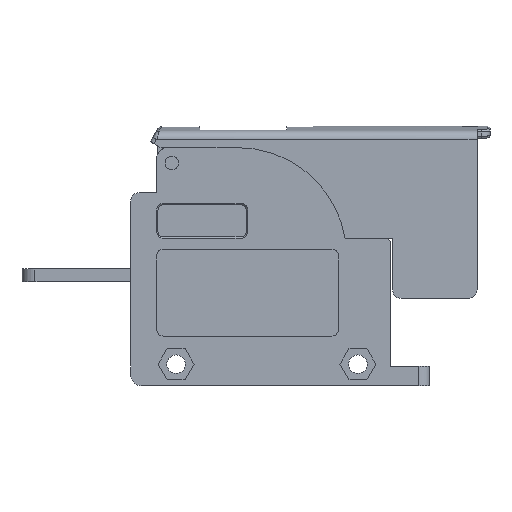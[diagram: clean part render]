
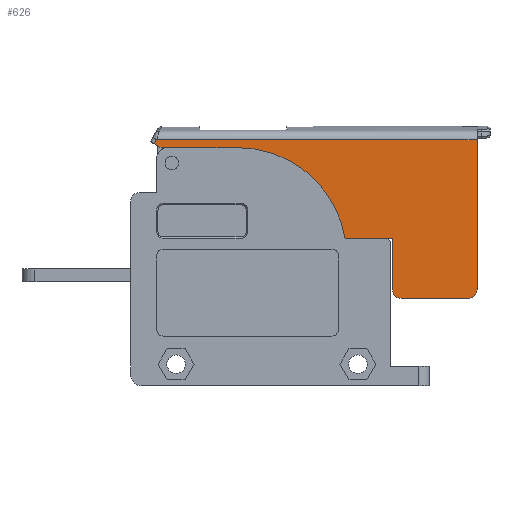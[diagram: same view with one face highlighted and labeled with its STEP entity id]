
A CAD part, left-side view. The second image highlights one B-rep face of the part: STEP entity #626.
In plain terms, the highlighted planar face has unit normal (-1, 0, 0).
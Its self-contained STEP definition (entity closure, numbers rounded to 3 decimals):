
#340=CIRCLE('',#5990,25.);
#386=CIRCLE('',#6107,2.);
#387=CIRCLE('',#6108,2.);
#626=ADVANCED_FACE('',(#1095),#866,.T.);
#866=PLANE('',#6109);
#1095=FACE_OUTER_BOUND('',#1412,.T.);
#1412=EDGE_LOOP('',(#2612,#2613,#2614,#2615,#2616,#2617,#2618,#2619,#2620,
#2621,#2622,#2623,#2624,#2625));
#1563=B_SPLINE_CURVE_WITH_KNOTS('',3,(#9207,#9208,#9209,#9210),
 .UNSPECIFIED.,.F.,.F.,(4,4),(0.,1.),.UNSPECIFIED.);
#2612=ORIENTED_EDGE('',*,*,#3805,.T.);
#2613=ORIENTED_EDGE('',*,*,#4354,.T.);
#2614=ORIENTED_EDGE('',*,*,#4355,.T.);
#2615=ORIENTED_EDGE('',*,*,#4356,.T.);
#2616=ORIENTED_EDGE('',*,*,#4357,.T.);
#2617=ORIENTED_EDGE('',*,*,#4358,.T.);
#2618=ORIENTED_EDGE('',*,*,#4346,.T.);
#2619=ORIENTED_EDGE('',*,*,#4345,.T.);
#2620=ORIENTED_EDGE('',*,*,#4236,.T.);
#2621=ORIENTED_EDGE('',*,*,#4246,.T.);
#2622=ORIENTED_EDGE('',*,*,#4338,.T.);
#2623=ORIENTED_EDGE('',*,*,#4136,.T.);
#2624=ORIENTED_EDGE('',*,*,#4151,.F.);
#2625=ORIENTED_EDGE('',*,*,#3833,.F.);
#3251=VERTEX_POINT('',#7805);
#3252=VERTEX_POINT('',#7806);
#3276=VERTEX_POINT('',#7863);
#3278=VERTEX_POINT('',#7869);
#3495=VERTEX_POINT('',#8480);
#3559=VERTEX_POINT('',#8689);
#3560=VERTEX_POINT('',#8691);
#3568=VERTEX_POINT('',#8718);
#3630=VERTEX_POINT('',#9211);
#3631=VERTEX_POINT('',#9213);
#3634=VERTEX_POINT('',#9230);
#3635=VERTEX_POINT('',#9232);
#3636=VERTEX_POINT('',#9234);
#3637=VERTEX_POINT('',#9236);
#3805=EDGE_CURVE('',#3251,#3252,#4628,.T.);
#3833=EDGE_CURVE('',#3251,#3278,#4646,.T.);
#4136=EDGE_CURVE('',#3276,#3495,#4890,.T.);
#4151=EDGE_CURVE('',#3278,#3495,#340,.T.);
#4236=EDGE_CURVE('',#3560,#3559,#4959,.T.);
#4246=EDGE_CURVE('',#3559,#3568,#4965,.T.);
#4338=EDGE_CURVE('',#3568,#3276,#5019,.T.);
#4345=EDGE_CURVE('',#3630,#3560,#1563,.T.);
#4346=EDGE_CURVE('',#3631,#3630,#5026,.T.);
#4354=EDGE_CURVE('',#3252,#3634,#5031,.T.);
#4355=EDGE_CURVE('',#3634,#3635,#386,.T.);
#4356=EDGE_CURVE('',#3635,#3636,#5032,.T.);
#4357=EDGE_CURVE('',#3636,#3637,#387,.T.);
#4358=EDGE_CURVE('',#3637,#3631,#5033,.T.);
#4628=LINE('',#7804,#5220);
#4646=LINE('',#7868,#5238);
#4890=LINE('',#8481,#5482);
#4959=LINE('',#8690,#5551);
#4965=LINE('',#8719,#5557);
#5019=LINE('',#9193,#5611);
#5026=LINE('',#9212,#5618);
#5031=LINE('',#9229,#5623);
#5032=LINE('',#9233,#5624);
#5033=LINE('',#9237,#5625);
#5220=VECTOR('',#6281,1.);
#5238=VECTOR('',#6329,1.);
#5482=VECTOR('',#6875,1.);
#5551=VECTOR('',#7080,1.);
#5557=VECTOR('',#7090,1.);
#5611=VECTOR('',#7236,1.);
#5618=VECTOR('',#7251,1.);
#5623=VECTOR('',#7266,1.);
#5624=VECTOR('',#7269,1.);
#5625=VECTOR('',#7272,1.);
#5990=AXIS2_PLACEMENT_3D('',#8508,#6904,#6905);
#6107=AXIS2_PLACEMENT_3D('',#9231,#7267,#7268);
#6108=AXIS2_PLACEMENT_3D('',#9235,#7270,#7271);
#6109=AXIS2_PLACEMENT_3D('',#9238,#7273,#7274);
#6281=DIRECTION('',(0.,-1.,0.));
#6329=DIRECTION('',(0.,1.,0.));
#6875=DIRECTION('',(0.,-1.,0.));
#6904=DIRECTION('',(-1.,0.,0.));
#6905=DIRECTION('',(0.,-1.,0.));
#7080=DIRECTION('',(0.,0.5,-0.866));
#7090=DIRECTION('',(0.,-0.866,-0.5));
#7236=DIRECTION('',(0.,-1.,0.));
#7251=DIRECTION('',(0.,1.,0.));
#7266=DIRECTION('',(0.,0.,-1.));
#7267=DIRECTION('',(-1.,0.,0.));
#7268=DIRECTION('',(0.,-1.,0.));
#7269=DIRECTION('',(0.,-1.,0.));
#7270=DIRECTION('',(-1.,0.,0.));
#7271=DIRECTION('',(0.,-1.,0.));
#7272=DIRECTION('',(0.,0.,1.));
#7273=DIRECTION('',(-1.,0.,0.));
#7274=DIRECTION('',(0.,0.,-1.));
#7804=CARTESIAN_POINT('',(-92.05,47.016,19.55));
#7805=CARTESIAN_POINT('',(-92.05,-5.5,19.55));
#7806=CARTESIAN_POINT('',(-92.05,-7.,19.55));
#7863=CARTESIAN_POINT('',(-92.05,45.,40.55));
#7868=CARTESIAN_POINT('',(-92.05,-13.6,19.55));
#7869=CARTESIAN_POINT('',(-92.05,3.976,19.55));
#8480=CARTESIAN_POINT('',(-92.05,28.654,40.55));
#8481=CARTESIAN_POINT('',(-92.05,8.384,40.55));
#8508=CARTESIAN_POINT('',(-92.05,28.654,15.55));
#8689=CARTESIAN_POINT('',(-92.05,48.051,41.467));
#8690=CARTESIAN_POINT('',(-92.05,58.542,23.297));
#8691=CARTESIAN_POINT('',(-92.05,47.515,42.396));
#8718=CARTESIAN_POINT('',(-92.05,46.462,40.55));
#8719=CARTESIAN_POINT('',(-92.05,46.997,40.859));
#9193=CARTESIAN_POINT('',(-92.05,8.384,40.55));
#9207=CARTESIAN_POINT('',(-92.05,38.5,42.417));
#9208=CARTESIAN_POINT('',(-92.05,41.505,42.41));
#9209=CARTESIAN_POINT('',(-92.05,44.51,42.403));
#9210=CARTESIAN_POINT('',(-92.05,47.515,42.396));
#9211=CARTESIAN_POINT('',(-92.05,38.5,42.417));
#9212=CARTESIAN_POINT('',(-92.05,39.7,42.437));
#9213=CARTESIAN_POINT('',(-92.05,-26.5,42.437));
#9229=CARTESIAN_POINT('',(-92.05,-7.,42.55));
#9230=CARTESIAN_POINT('',(-92.05,-7.,7.75));
#9231=CARTESIAN_POINT('',(-92.05,-9.,7.75));
#9232=CARTESIAN_POINT('',(-92.05,-9.,5.75));
#9233=CARTESIAN_POINT('',(-92.05,7.4,5.75));
#9234=CARTESIAN_POINT('',(-92.05,-24.5,5.75));
#9235=CARTESIAN_POINT('',(-92.05,-24.5,7.75));
#9236=CARTESIAN_POINT('',(-92.05,-26.5,7.75));
#9237=CARTESIAN_POINT('',(-92.05,-26.5,42.55));
#9238=CARTESIAN_POINT('',(-92.05,8.384,42.45));
